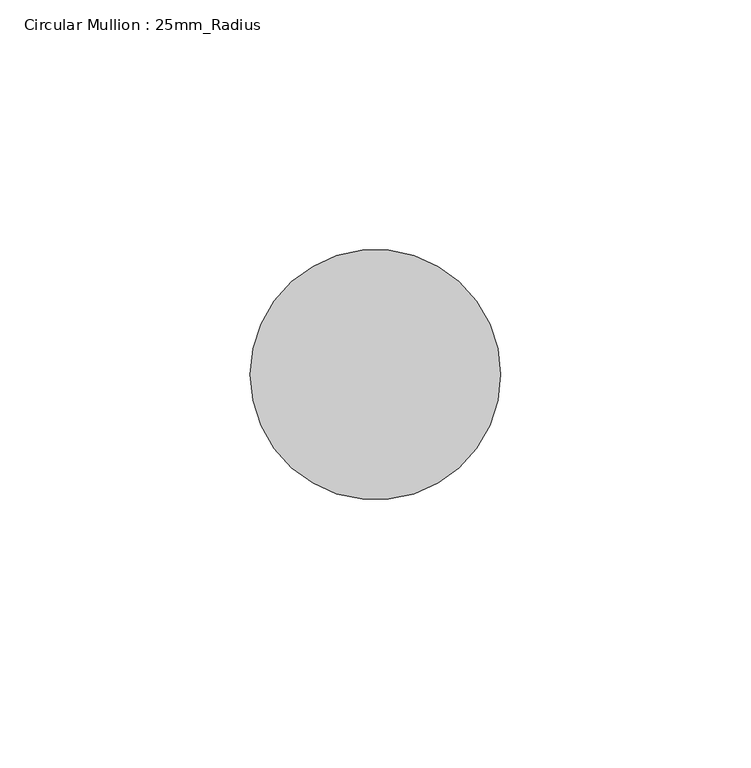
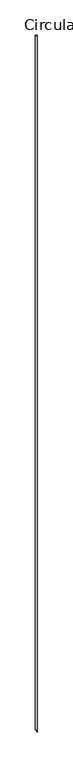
"""IFC4 building model written with IfcOpenShell, lengths in millimetres: member geometry, Circular Mullion : 25mm_Radius."""

from ifc_helpers import new_model, si_unit, frame, origin, place, context, project, spatial, circle_curve, ellipse_curve, source, transform, mapped, element, save
from ifc_brep_helpers import plane_surface, cylinder_surface, advanced_brep


def circular_mullion_25mm_radius_0e0f38d4(model_context):
    return source(origin(), model_context, "Body", "AdvancedBrep", [
        advanced_brep(
        [(0.0, 0.0, 0.0), (-50.0, 0.0, 0.0), (0.0, 0.0, -19900.0), (-50.0, 0.0, -19817.583087)],
        [
            (0, 1, circle_curve(frame((-25.0, 0.0, 0.0), z_axis=(0.0, 0.0, 1.0), x_axis=(1.0, 0.0, 0.0)), 25.0)),
            (1, 0, circle_curve(frame((-25.0, 0.0, 0.0), z_axis=(0.0, 0.0, 1.0), x_axis=(1.0, 0.0, 0.0)), 25.0)),
            (0, 2),
            (2, 3, ellipse_curve(frame((-25.0, 0.0, -19858.7915435), z_axis=(0.8549662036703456, 0.0, 0.518683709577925), x_axis=(-0.518683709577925, 0.0, 0.8549662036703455)), 48.1989304, 25.0)),
            (3, 1),
            (3, 2, ellipse_curve(frame((-25.0, 0.0, -19858.7915435), z_axis=(0.8549662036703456, 0.0, 0.518683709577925), x_axis=(-0.518683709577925, 0.0, 0.8549662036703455)), 48.1989304, 25.0)),
        ],
        [
            plane_surface(frame((0.0, -50.0, 0.0), z_axis=(0.0, 0.0, 1.0), x_axis=(-1.0, 0.0, 0.0))),
            cylinder_surface(frame((-25.0, 0.0, 0.0), z_axis=(0.0, 0.0, 1.0), x_axis=(1.0, 0.0, 0.0)), 25.0),
            plane_surface(frame((0.0, -304.8, -19900.0), z_axis=(-0.8549662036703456, 0.0, -0.518683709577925), x_axis=(-0.518683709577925, 0.0, 0.8549662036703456))),
        ],
        [
            (0, [[1, 2]]),
            (1, [[-1, 3, 4, 5]]),
            (1, [[-2, -5, 6, -3]]),
            (2, [[-6, -4]]),
        ],
    ),
    ])


if __name__ == "__main__":
    model = new_model("IFC4")
    model_context = context("Model", 3, world=origin())
    ifc_project = project(units=[si_unit("LENGTHUNIT", "METRE", prefix="MILLI")], contexts=[model_context])
    site = spatial("IfcSite", under=ifc_project)
    building = spatial("IfcBuilding", under=site)
    placement = place(None, origin())
    circular_mullion_25mm_radius_shape = circular_mullion_25mm_radius_0e0f38d4(model_context)
    element("IfcMember", 1, ObjectType="Circular Mullion : 25mm_Radius", at=placement, inside=building, context=model_context, shape_type="MappedRepresentation", body=[
        mapped(circular_mullion_25mm_radius_shape, transform((0.0, 0.0, 0.0), x_axis=(1.0, 0.0, 0.0), y_axis=(0.0, 1.0, 0.0), z_axis=(0.0, 0.0, 1.0))),
    ])
    save(model, "model.ifc")
